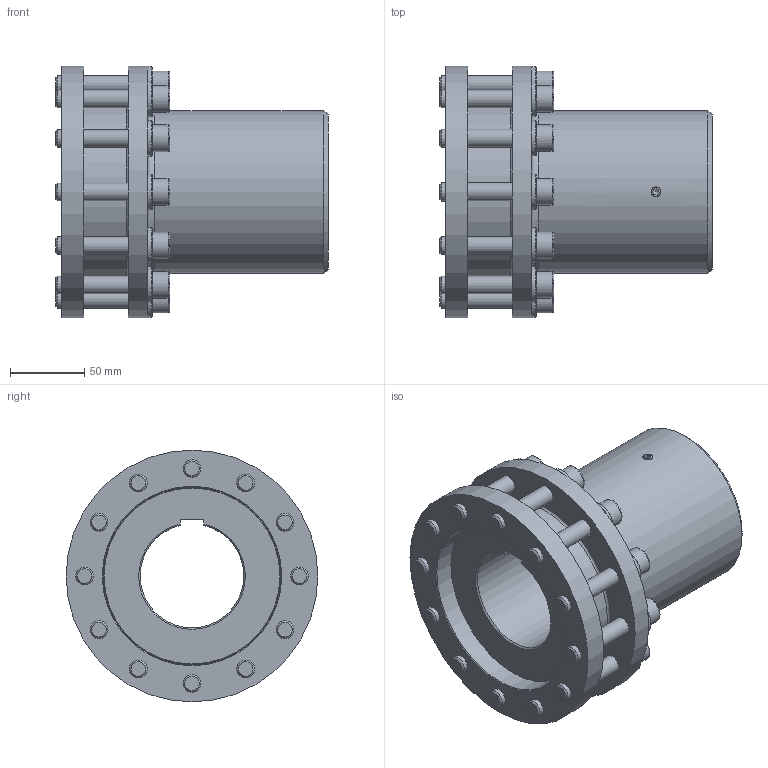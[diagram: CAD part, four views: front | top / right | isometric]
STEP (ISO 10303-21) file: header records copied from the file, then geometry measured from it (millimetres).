
FILE_DESCRIPTION(/* description */ (''),/* implementation_level */ '2;1');
FILE_NAME(/* name */ 'C:\Users\milman01\Desktop\step file\xxxxxx\34440.stp',/* time_stamp */ '2017-03-15T10:15:45+01:00',/* author */ ('milman01'),/* organization */ (''),/* preprocessor_version */ 'ST-DEVELOPER v16.1',/* originating_system */ 'Autodesk Inventor 2016',/* authorisation */ '');
FILE_SCHEMA (('AUTOMOTIVE_DESIGN { 1 0 10303 214 3 1 1 }'));
Length unit declared in the file: millimetre
Products named in the file (1): 46806_Shrinkwrap_1
Bounding box: 184 x 170 x 170 mm (x, y, z)
Volume: 1418942.1 mm3; surface area: 211492.2 mm2
Topology: 1 solids, 1 shells, 283 faces, 642 edges, 414 vertices
Faces by surface type: plane 142, cylinder 69, cone 58, torus 14
Full cylindrical faces by diameter (mm): 6.647 x1, 12 x24, 13 x12, 18 x12, 24 x12, 110 x1, 120 x2, 170 x2
Entity records: 7091 total; most frequent: CARTESIAN_POINT 1299, DIRECTION 1140, ORIENTED_EDGE 908, EDGE_LOOP 498, AXIS2_PLACEMENT_3D 484, EDGE_CURVE 454, VERTEX_POINT 362, STYLED_ITEM 284
